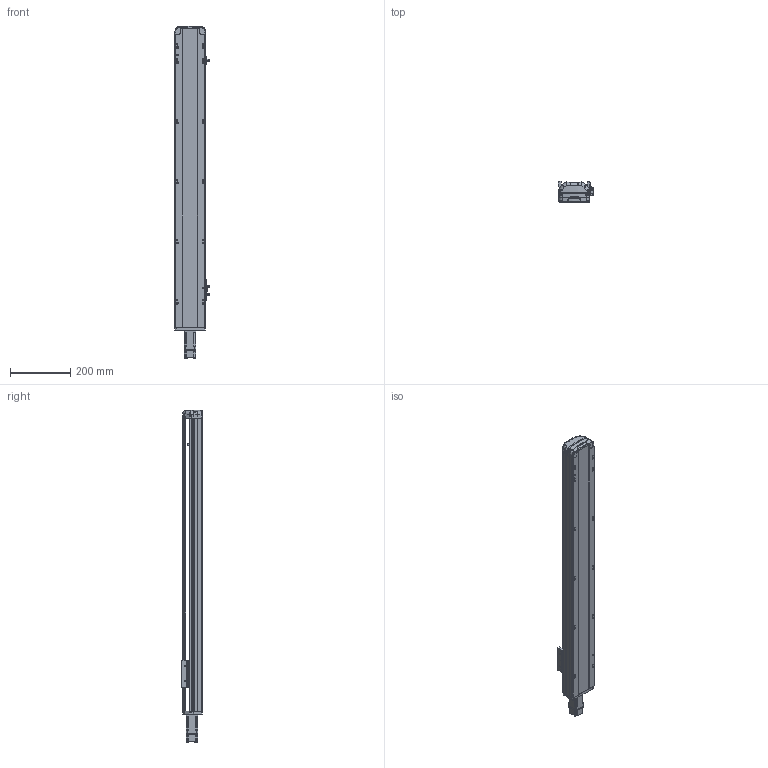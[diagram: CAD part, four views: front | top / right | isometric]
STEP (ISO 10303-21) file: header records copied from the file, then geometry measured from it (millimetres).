
FILE_DESCRIPTION (( 'STEP AP214' ), '1' );
FILE_NAME ('RTH10-XX-750-E-M10-C4.STEP', '2025-10-25T05:25:46', ( 'Microsoft' ), ( 'Microsoft' ), 'SwSTEP 2.0', 'SolidWorks 2018', '' );
FILE_SCHEMA (( 'AUTOMOTIVE_DESIGN' ));
Length unit declared in the file: millimetre
Products named in the file (9): N_RTH12-GY-004-賑釱^RTH10-XX-XX-E-M10-C4; N_RTH13-L-012覜茼え俋离^RTH10-XX-XX-E-M10-C4; RTH10-XX-750-E-M10-C4; N_RTH12-E-011P-臏倰第菁釱^RTH10-XX-XX-E-M10-C4; N_P10^RTH10-XX-XX-E-M10-C4; N_RTH12-E-008-M10萇儂啣^RTH10-XX-XX-E-M10-C4; N_RTH12-GY-001P^RTH10-XX-XX-E-M10-C4; N_RTH12-E-007P-奻裔^RTH10-XX-XX-E-M10-C4; N_OMRON EE-SX672 传感器^RTH10-XX-XX-E-M10-C4
Assembly tree (10 placements, depth 2):
  RTH10-XX-750-E-M10-C4
    N_RTH12-E-011P-臏倰第菁釱^RTH10-XX-XX-E-M10-C4
    N_RTH13-L-012覜茼え俋离^RTH10-XX-XX-E-M10-C4
    N_OMRON EE-SX672 传感器^RTH10-XX-XX-E-M10-C4  x3
    N_P10^RTH10-XX-XX-E-M10-C4
    N_RTH12-E-007P-奻裔^RTH10-XX-XX-E-M10-C4
    N_RTH12-E-008-M10萇儂啣^RTH10-XX-XX-E-M10-C4
    N_RTH12-GY-001P^RTH10-XX-XX-E-M10-C4
    N_RTH12-GY-004-賑釱^RTH10-XX-XX-E-M10-C4
Bounding box: 116.5 x 70 x 1103.34 mm (x, y, z)
Volume: 4005655.4 mm3; surface area: 634736.2 mm2
Topology: 9 solids, 11 shells, 1972 faces, 5497 edges, 3606 vertices
Faces by surface type: plane 976, cylinder 489, bspline 472, cone 33, torus 2
Entity records: 59461 total; most frequent: CARTESIAN_POINT 23474, ORIENTED_EDGE 8074, DIRECTION 6241, EDGE_CURVE 4043, VERTEX_POINT 2650, VECTOR 2127, LINE 2127, AXIS2_PLACEMENT_3D 2057
